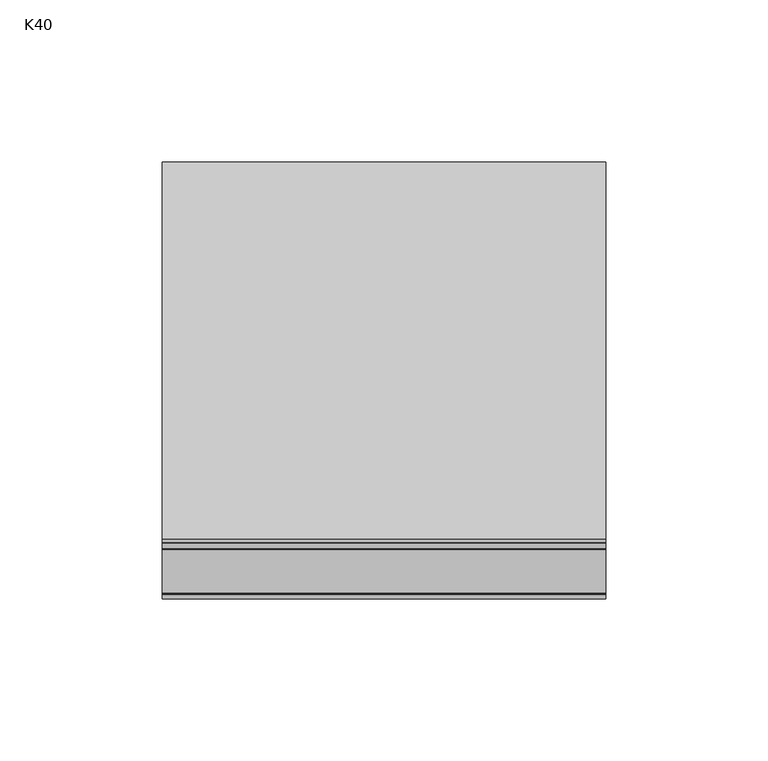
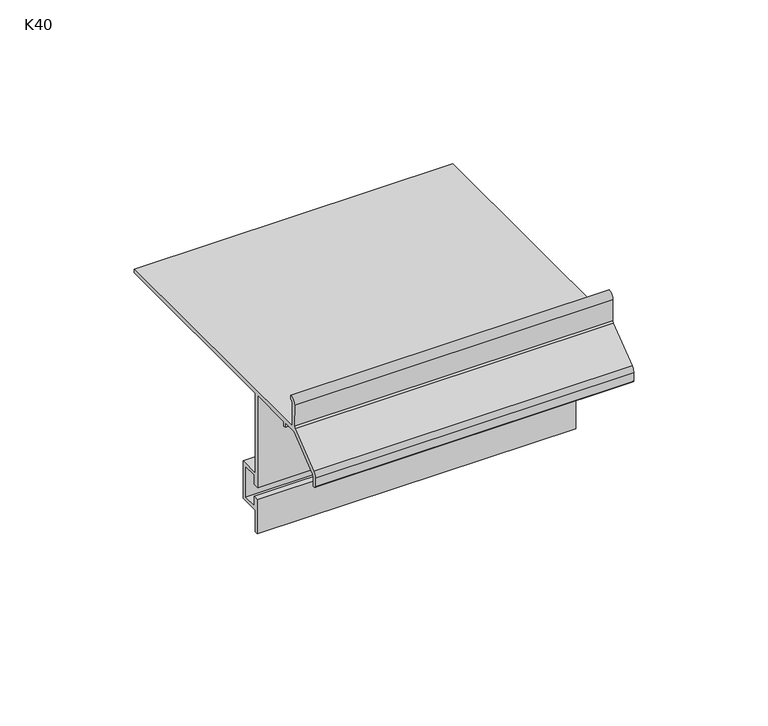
"""IFC4 building model written with IfcOpenShell, lengths in millimetres: proxy geometry, K40 Profil okapowy prosty z rynną : K40."""

from ifc_helpers import new_model, si_unit, point, frame, frame_2d, origin, place, context, project, spatial, polyline, circle_curve, trimmed, segment, composite_curve, outline, extrude, source, transform, mapped, element, save


def k40_7df9b5a1(model_context):
    return source(origin(), model_context, "Body", "SweptSolid", [
        extrude(outline(composite_curve([segment(polyline([(24.790973, -57.0495867), (24.790973, -15.0820716), (5.0997493, -15.0820716), (5.0920266, -17.1021433), (4.0927202, -17.1065163), (4.1008046, -15.0820716), (-2.4887219, -15.0820716), (-15.7425283, -25.4001621)]), True, "CONTINUOUS"), segment(trimmed(circle_curve(frame_2d((-14.529488, -26.9902983)), 2.0), [point((-15.7425283, -25.4001621))], [point((-16.5294511, -27.0024549))], True, "CARTESIAN"), True, "CONTINUOUS"), segment(polyline([(-16.5294511, -27.0024549), (-16.5085763, -30.4367198)]), True, "CONTINUOUS"), segment(trimmed(circle_curve(frame_2d((-17.3591685, -30.3418882)), 0.8558621), [point((-16.5085763, -30.4367198))], [point((-18.2085449, -30.4470529))], False, "CARTESIAN"), True, "CONTINUOUS"), segment(polyline([(-18.2085449, -30.4470529), (-18.2315415, -26.6637113)]), True, "CONTINUOUS"), segment(trimmed(circle_curve(frame_2d((-15.2315969, -26.6454765)), 3.0), [point((-18.2315415, -26.6637113))], [point((-17.0511573, -24.2602721))], False, "CARTESIAN"), True, "CONTINUOUS"), segment(polyline([(-17.0511573, -24.2602721), (-3.1518737, -13.3523721)]), True, "CONTINUOUS"), segment(trimmed(circle_curve(frame_2d((-4.1173519, -12.3385419)), 1.4), [point((-3.1518737, -13.3523721))], [point((-2.7242139, -12.4769853))], True, "CARTESIAN"), True, "CONTINUOUS"), segment(polyline([(-2.7242139, -12.4769853), (-2.7829292, -2.8169668)]), True, "CONTINUOUS"), segment(trimmed(circle_curve(frame_2d((0.0170191, -2.7999483)), 2.8), [point((-2.7829292, -2.8169668))], [point((0.0, 0.0))], False, "CARTESIAN"), True, "CONTINUOUS"), segment(polyline([(0.0, 0.0), (0.0109399, -1.7998068)]), True, "CONTINUOUS"), segment(trimmed(circle_curve(frame_2d((0.0120135, -2.7877506)), 0.9879444), [point((0.0109399, -1.7998068))], [point((-0.9757443, -2.7685501))], True, "CARTESIAN"), True, "CONTINUOUS"), segment(polyline([(-0.9757443, -2.7685501), (-0.9115875, -13.3289895), (116.4889281, -13.3289895), (116.4889281, -15.0820716), (26.3208839, -15.0820716), (26.3208839, -51.2995887), (35.5016753, -51.2995887), (35.5016753, -68.292524), (26.5440554, -68.292524), (26.5440554, -78.1012637), (24.8312026, -78.1012637), (24.8312026, -62.5508482), (27.3339394, -62.5508482), (27.3339394, -66.7941249), (33.8031079, -66.7941249), (33.8031079, -52.7987457), (27.3231899, -52.7987457), (27.3231899, -57.0495867), (24.790973, -57.0495867)]), True, "CONTINUOUS")], self_intersect=False)), frame((0.0, 0.0, 0.0), z_axis=(1.0, 0.0, 0.0), x_axis=(0.0, 1.0, 0.0)), (0.0, 0.0, 1.0), 136.8131715),
    ])


if __name__ == "__main__":
    model = new_model("IFC4")
    model_context = context("Model", 3, world=origin())
    ifc_project = project(units=[si_unit("LENGTHUNIT", "METRE", prefix="MILLI")], contexts=[model_context])
    site = spatial("IfcSite", under=ifc_project)
    building = spatial("IfcBuilding", under=site)
    placement = place(None, origin())
    k40_shape = k40_7df9b5a1(model_context)
    element("IfcBuildingElementProxy", 1, Name="K40 Profil okapowy prosty z rynną : K40", ObjectType="K40 Profil okapowy prosty z rynną : K40", at=placement, inside=building, context=model_context, shape_type="MappedRepresentation", body=[
        mapped(k40_shape, transform((0.0, 0.0, 0.0), x_axis=(1.0, 0.0, 0.0), y_axis=(0.0, 1.0, 0.0), z_axis=(0.0, 0.0, 1.0))),
    ])
    save(model, "model.ifc")
